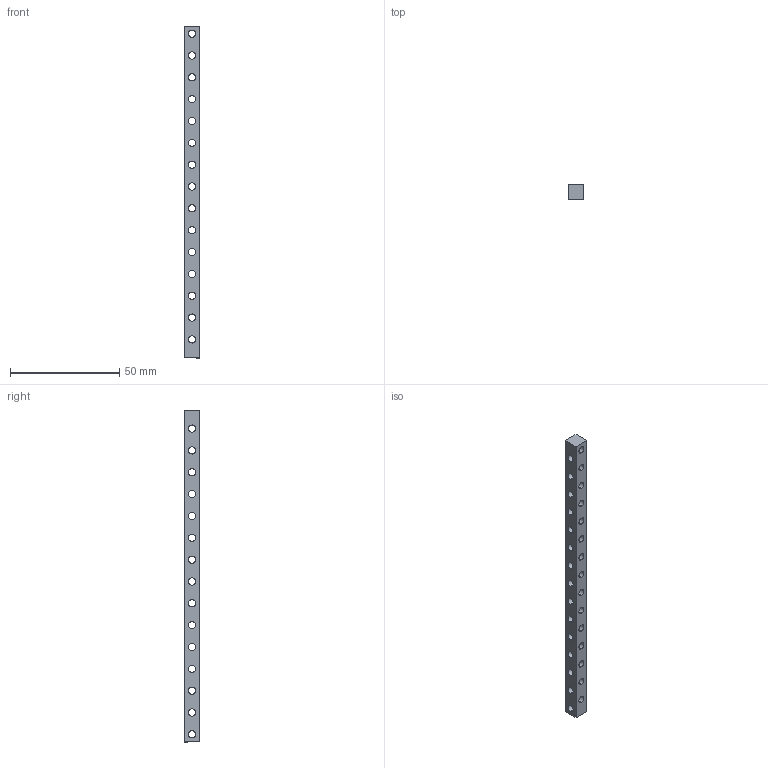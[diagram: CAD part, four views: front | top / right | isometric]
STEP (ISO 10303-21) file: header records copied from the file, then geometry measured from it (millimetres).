
FILE_DESCRIPTION (( 'STEP AP214' ), '1' );
FILE_NAME ('7mm_NutStrip_15x15_R1.STEP', '2019-10-05T04:26:15', ( 'Kurtis' ), ( '' ), 'SwSTEP 2.0', 'SolidWorks 2015', '' );
FILE_SCHEMA (( 'AUTOMOTIVE_DESIGN' ));
Length unit declared in the file: millimetre
Products named in the file (1): 7mm_NutStrip_15x15_R1
Bounding box: 7 x 7 x 152 mm (x, y, z)
Volume: 5651.9 mm3; surface area: 6017.9 mm2
Topology: 1 solids, 1 shells, 66 faces, 192 edges, 128 vertices
Faces by surface type: cylinder 60, plane 6
Entity records: 2454 total; most frequent: DIRECTION 446, CARTESIAN_POINT 387, ORIENTED_EDGE 384, EDGE_CURVE 192, AXIS2_PLACEMENT_3D 187, VERTEX_POINT 128, EDGE_LOOP 126, CIRCLE 120
